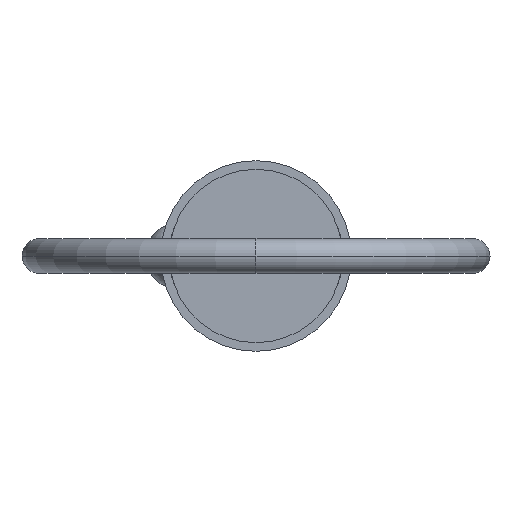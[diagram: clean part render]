
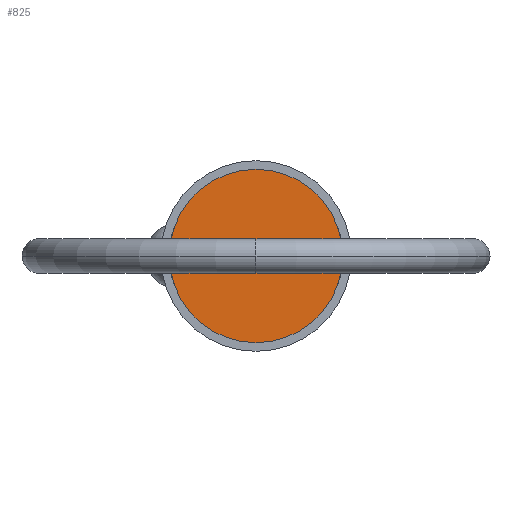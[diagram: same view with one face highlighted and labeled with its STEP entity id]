
A CAD part, left-side view. The second image highlights one B-rep face of the part: STEP entity #825.
In plain terms, the highlighted planar face has unit normal (-1, 0, 0).
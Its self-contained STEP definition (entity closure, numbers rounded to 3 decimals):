
#24 = CARTESIAN_POINT ( 'NONE',  ( 0., 0., 0. ) ) ;
#66 = DIRECTION ( 'NONE',  ( 0., 0., -1. ) ) ;
#89 = EDGE_CURVE ( 'NONE', #964, #845, #856, .T. ) ;
#176 = CARTESIAN_POINT ( 'NONE',  ( 0., 0., 12.7 ) ) ;
#181 = CARTESIAN_POINT ( 'NONE',  ( 0., 0., 0. ) ) ;
#258 = AXIS2_PLACEMENT_3D ( 'NONE', #24, #852, #518 ) ;
#269 = PLANE ( 'NONE',  #258 ) ;
#314 = ORIENTED_EDGE ( 'NONE', *, *, #89, .F. ) ;
#320 = EDGE_LOOP ( 'NONE', ( #314, #809 ) ) ;
#334 = DIRECTION ( 'NONE',  ( 1., 0., 0. ) ) ;
#348 = DIRECTION ( 'NONE',  ( 0., 0., -1. ) ) ;
#518 = DIRECTION ( 'NONE',  ( 0., 0., 1. ) ) ;
#592 = CIRCLE ( 'NONE', #1044, 12.7 ) ;
#619 = DIRECTION ( 'NONE',  ( 1., 0., 0. ) ) ;
#643 = EDGE_CURVE ( 'NONE', #845, #964, #592, .T. ) ;
#809 = ORIENTED_EDGE ( 'NONE', *, *, #643, .F. ) ;
#814 = CARTESIAN_POINT ( 'NONE',  ( 0., 0., 0. ) ) ;
#825 = ADVANCED_FACE ( 'NONE', ( #1017 ), #269, .T. ) ;
#845 = VERTEX_POINT ( 'NONE', #176 ) ;
#852 = DIRECTION ( 'NONE',  ( -1., 0., 0. ) ) ;
#856 = CIRCLE ( 'NONE', #987, 12.7 ) ;
#946 = CARTESIAN_POINT ( 'NONE',  ( 0., 0., -12.7 ) ) ;
#964 = VERTEX_POINT ( 'NONE', #946 ) ;
#987 = AXIS2_PLACEMENT_3D ( 'NONE', #181, #619, #348 ) ;
#1017 = FACE_OUTER_BOUND ( 'NONE', #320, .T. ) ;
#1044 = AXIS2_PLACEMENT_3D ( 'NONE', #814, #334, #66 ) ;
